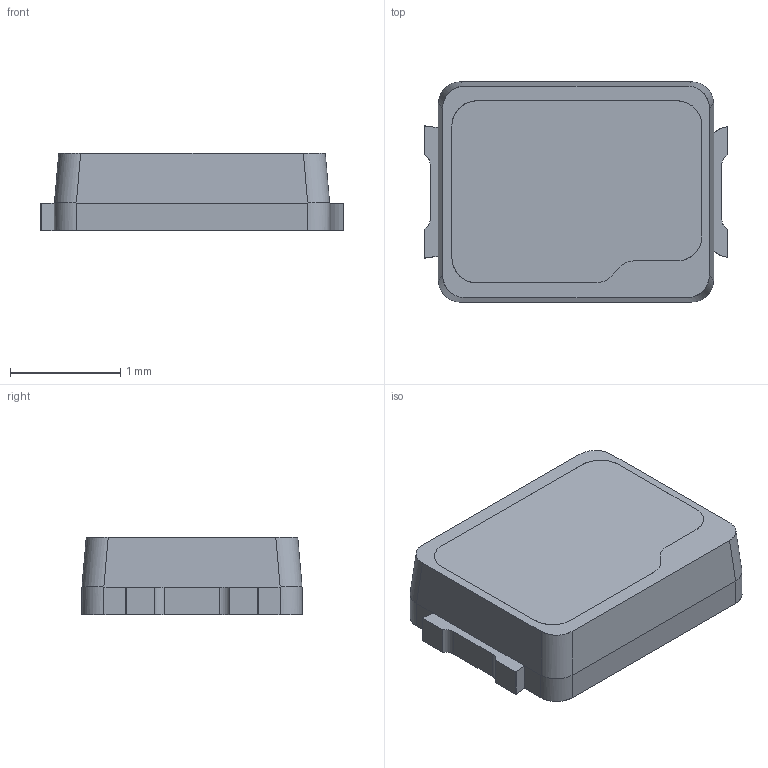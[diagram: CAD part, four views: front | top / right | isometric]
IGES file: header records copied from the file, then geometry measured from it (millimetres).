
Start section: SolidWorks IGES file using analytic representation for surfaces
Global section: file name: C:\Users\user\Desktop\XYY\1-车灯产品3D图汇总\2520\2520-0.5W\白光\LWNB\光学模型\LWNB.IGS; native system: SolidWorks 2022; preprocessor: SolidWorks 2022; author: user; date: 250322.185911; units: millimetre
Bounding box: 2.75 x 2 x 0.7 mm (x, y, z)
Surface area: 27 mm2 (no closed solid volume)
Topology: 0 solids, 0 shells, 183 faces, 1784 edges, 2308 vertices
Faces by surface type: bspline 125, revolution 58
